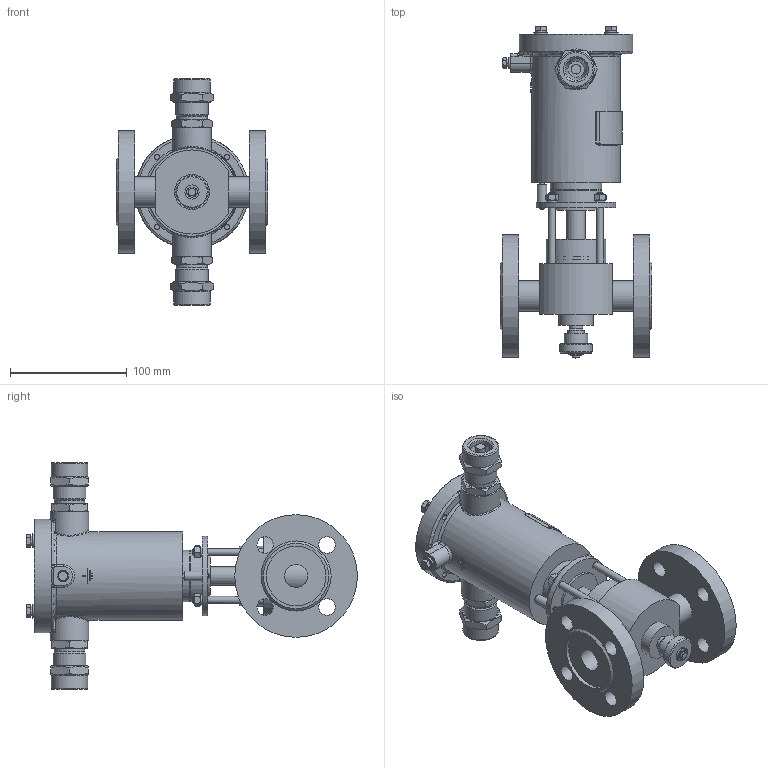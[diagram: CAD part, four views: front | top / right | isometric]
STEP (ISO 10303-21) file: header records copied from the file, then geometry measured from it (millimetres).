
FILE_DESCRIPTION(('STEP AP203'), '1');
FILE_NAME('ÑÅÍÑ DN20PN25-Â-ÍÎ-200Ñ.stp', '2018-09-19T08:55:14', ('Îðëîâ Å.Â.'), ('ÎÎÎ ÍÏÏ Ñåíñîð'), 'ASCON STEP Converter 1.3', 'Kompas 3D', '');
FILE_SCHEMA(('CONFIG_CONTROL_DESIGN','SUPPORT_RESOURCE_SCHEMA'));
Length unit declared in the file: millimetre
Products named in the file (1): 107
Bounding box: 130 x 284.2 x 194 mm (x, y, z)
Volume: 817365.8 mm3; surface area: 245285.9 mm2
Topology: 3 solids, 25 shells, 1924 faces, 5064 edges, 3306 vertices
Faces by surface type: cylinder 996, plane 726, cone 138, bspline 29, torus 19, extrusion 16
Full cylindrical faces by diameter (mm): 2.459 x4, 4 x8, 4.134 x1, 4.5 x2, 4.917 x8, 5 x2, 5.1 x1, 6 x15, 6.3 x2, 6.4 x1, 6.5 x11, 7 x1, 8 x8, 10 x3, 11.5 x1, 12 x5, 12.4 x1, 13 x2, 14 x9, 16 x2, 16.376 x1, 18 x1, 18.632 x2, 20 x5, 22 x2, 22.376 x2, 23.5 x3, 24 x3, 24.5 x4, 25 x3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
Entity records: 72484 total; most frequent: CARTESIAN_POINT 23462, DIRECTION 10696, ORIENTED_EDGE 10104, EDGE_CURVE 5052, AXIS2_PLACEMENT_3D 4127, VERTEX_POINT 3306, VECTOR 2442, LINE 2426
